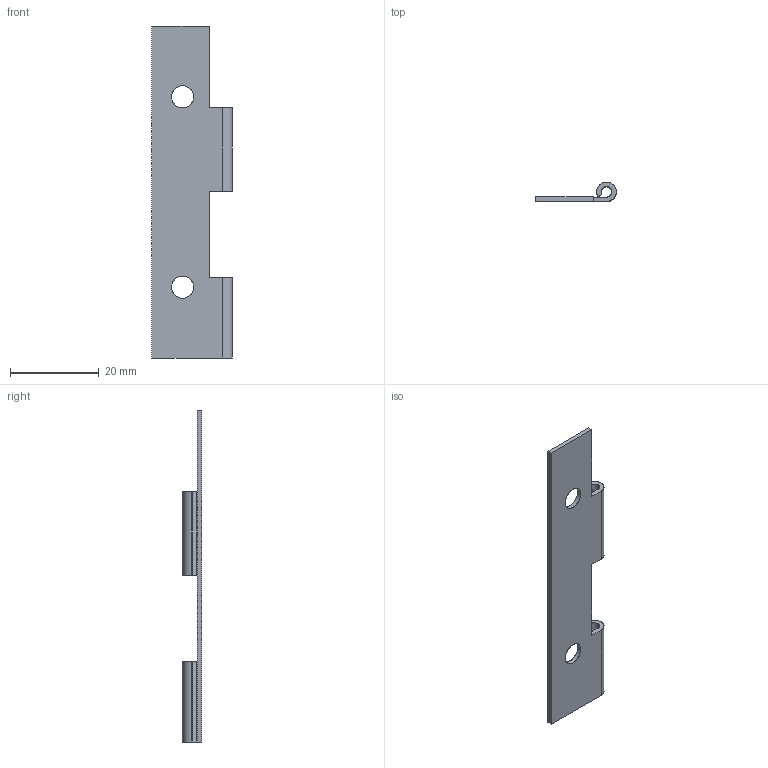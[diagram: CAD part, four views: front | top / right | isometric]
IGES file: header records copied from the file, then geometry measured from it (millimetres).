
Start section: SolidWorks IGES file using analytic representation for surfaces
Global section: file name: Z:\Mes documents\ATAO iges\Gamme CL\CL 418\418.010.00.IGS; native system: SolidWorks 2008; preprocessor: SolidWorks 2008; author: cbrechard; date: 110628.182622; units: millimetre
Bounding box: 18.2 x 4.4 x 75 mm (x, y, z)
Surface area: 3004.8 mm2 (no closed solid volume)
Topology: 0 solids, 0 shells, 28 faces, 460 edges, 460 vertices
Faces by surface type: revolution 16, bspline 12
